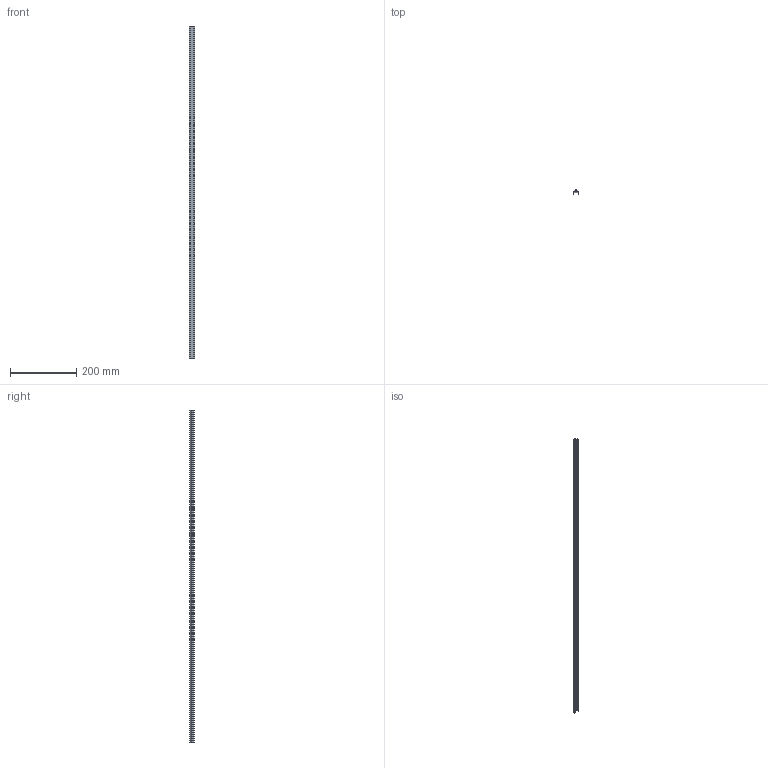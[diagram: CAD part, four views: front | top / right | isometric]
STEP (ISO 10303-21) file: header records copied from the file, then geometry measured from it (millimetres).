
FILE_DESCRIPTION(('STEP AP214'),'1');
FILE_NAME('ILK-FLEXEXT-1000-002_extrusion_Step.stp','2016-10-21T14:44:23',(' '),(' '),'Spatial InterOp 3D',' ',' ');
FILE_SCHEMA(('automotive_design'));
Length unit declared in the file: metre
Products named in the file (2): Solid; 1
Bounding box: 16.99 x 12.51 x 1000.07 mm (x, y, z)
Volume: 60700.7 mm3; surface area: 93769.6 mm2
Topology: 1 solids, 1 shells, 55 faces, 161 edges, 110 vertices
Faces by surface type: plane 30, cylinder 25
Entity records: 2340 total; most frequent: DIRECTION 325, CARTESIAN_POINT 324, ORIENTED_EDGE 318, EDGE_CURVE 159, LINE 111, VECTOR 111, AXIS2_PLACEMENT_3D 107, VERTEX_POINT 106
